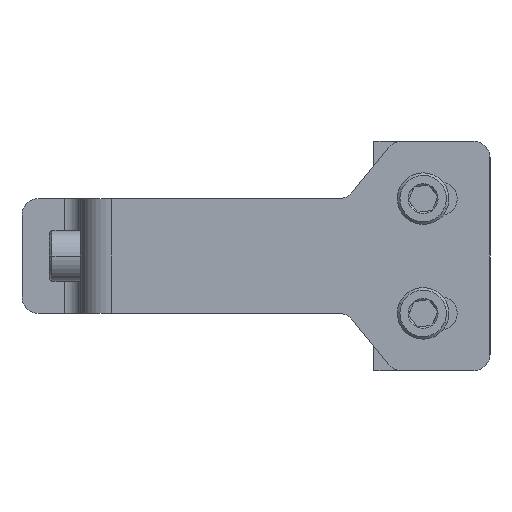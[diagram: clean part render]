
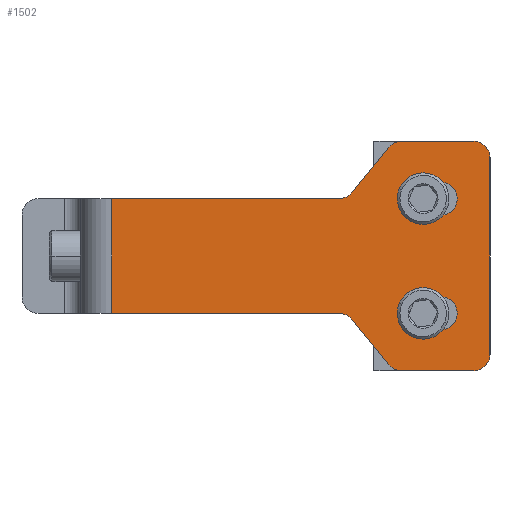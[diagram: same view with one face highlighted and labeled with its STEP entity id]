
A CAD part, left-side view. The second image highlights one B-rep face of the part: STEP entity #1502.
In plain terms, the highlighted planar face has unit normal (-1, 0, 0).
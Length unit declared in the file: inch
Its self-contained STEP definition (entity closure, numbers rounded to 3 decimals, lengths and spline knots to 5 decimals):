
#803=DIRECTION('',(0.,-1.,0.));
#804=VECTOR('',#803,0.55066);
#805=CARTESIAN_POINT('',(0.,0.67566,-0.875));
#806=LINE('',#805,#804);
#807=CARTESIAN_POINT('',(0.,0.67566,-0.75));
#808=DIRECTION('',(-1.,0.,0.));
#809=DIRECTION('',(0.,0.775,-0.632));
#810=AXIS2_PLACEMENT_3D('',#807,#808,#809);
#812=DIRECTION('',(0.,-0.632,-0.775));
#813=VECTOR('',#812,0.446);
#814=CARTESIAN_POINT('',(0.,1.05449,-0.48347));
#815=LINE('',#814,#813);
#816=CARTESIAN_POINT('',(0.,1.15134,-0.5625));
#817=DIRECTION('',(1.,0.,0.));
#818=DIRECTION('',(0.,0.,1.));
#819=AXIS2_PLACEMENT_3D('',#816,#817,#818);
#821=DIRECTION('',(0.,-1.,0.));
#822=VECTOR('',#821,1.73366);
#823=CARTESIAN_POINT('',(0.,2.885,-0.4375));
#824=LINE('',#823,#822);
#825=DIRECTION('',(0.,1.,0.));
#826=VECTOR('',#825,1.73366);
#827=CARTESIAN_POINT('',(0.,1.15134,0.4375));
#828=LINE('',#827,#826);
#829=CARTESIAN_POINT('',(0.,1.15134,0.5625));
#830=DIRECTION('',(1.,0.,0.));
#831=DIRECTION('',(0.,-0.775,-0.632));
#832=AXIS2_PLACEMENT_3D('',#829,#830,#831);
#834=DIRECTION('',(0.,0.632,-0.775));
#835=VECTOR('',#834,0.446);
#836=CARTESIAN_POINT('',(0.,0.77251,0.82903));
#837=LINE('',#836,#835);
#838=CARTESIAN_POINT('',(0.,0.67566,0.75));
#839=DIRECTION('',(-1.,0.,0.));
#840=DIRECTION('',(0.,0.,1.));
#841=AXIS2_PLACEMENT_3D('',#838,#839,#840);
#843=CARTESIAN_POINT('',(0.,0.125,0.75));
#844=DIRECTION('',(-1.,0.,0.));
#845=DIRECTION('',(0.,-1.,0.));
#846=AXIS2_PLACEMENT_3D('',#843,#844,#845);
#848=DIRECTION('',(0.,0.,1.));
#849=VECTOR('',#848,1.5);
#850=CARTESIAN_POINT('',(0.,0.,-0.75));
#851=LINE('',#850,#849);
#852=CARTESIAN_POINT('',(0.,0.125,-0.75));
#853=DIRECTION('',(-1.,0.,0.));
#854=DIRECTION('',(0.,0.,-1.));
#855=AXIS2_PLACEMENT_3D('',#852,#853,#854);
#857=CARTESIAN_POINT('',(0.,0.51,0.4375));
#858=DIRECTION('',(1.,0.,0.));
#859=DIRECTION('',(0.,0.,-1.));
#860=AXIS2_PLACEMENT_3D('',#857,#858,#859);
#862=DIRECTION('',(0.,1.,0.));
#863=VECTOR('',#862,0.135);
#864=CARTESIAN_POINT('',(0.,0.375,0.3125));
#865=LINE('',#864,#863);
#866=CARTESIAN_POINT('',(0.,0.375,0.4375));
#867=DIRECTION('',(1.,0.,0.));
#868=DIRECTION('',(0.,0.,1.));
#869=AXIS2_PLACEMENT_3D('',#866,#867,#868);
#871=DIRECTION('',(0.,-1.,0.));
#872=VECTOR('',#871,0.135);
#873=CARTESIAN_POINT('',(0.,0.51,0.5625));
#874=LINE('',#873,#872);
#875=CARTESIAN_POINT('',(0.,0.51,-0.4375));
#876=DIRECTION('',(1.,0.,0.));
#877=DIRECTION('',(0.,0.,-1.));
#878=AXIS2_PLACEMENT_3D('',#875,#876,#877);
#880=DIRECTION('',(0.,1.,0.));
#881=VECTOR('',#880,0.135);
#882=CARTESIAN_POINT('',(0.,0.375,-0.5625));
#883=LINE('',#882,#881);
#884=CARTESIAN_POINT('',(0.,0.375,-0.4375));
#885=DIRECTION('',(1.,0.,0.));
#886=DIRECTION('',(0.,0.,1.));
#887=AXIS2_PLACEMENT_3D('',#884,#885,#886);
#889=DIRECTION('',(0.,-1.,0.));
#890=VECTOR('',#889,0.135);
#891=CARTESIAN_POINT('',(0.,0.51,-0.3125));
#892=LINE('',#891,#890);
#1007=DIRECTION('',(0.,-1.,0.));
#1008=VECTOR('',#1007,0.55066);
#1009=CARTESIAN_POINT('',(0.,0.67566,0.875));
#1010=LINE('',#1009,#1008);
#1023=DIRECTION('',(0.,0.,1.));
#1024=VECTOR('',#1023,0.875);
#1025=CARTESIAN_POINT('',(0.,2.885,-0.4375));
#1026=LINE('',#1025,#1024);
#1203=CARTESIAN_POINT('',(0.,1.15134,0.4375));
#1204=CARTESIAN_POINT('',(0.,2.885,0.4375));
#1205=VERTEX_POINT('',#1203);
#1206=VERTEX_POINT('',#1204);
#1207=CARTESIAN_POINT('',(0.,1.15134,-0.4375));
#1208=CARTESIAN_POINT('',(0.,1.05449,-0.48347));
#1209=VERTEX_POINT('',#1207);
#1210=VERTEX_POINT('',#1208);
#1211=CARTESIAN_POINT('',(0.,0.375,0.5625));
#1212=CARTESIAN_POINT('',(0.,0.375,0.3125));
#1213=VERTEX_POINT('',#1211);
#1214=VERTEX_POINT('',#1212);
#1223=CARTESIAN_POINT('',(0.,1.05449,0.48347));
#1224=VERTEX_POINT('',#1223);
#1231=CARTESIAN_POINT('',(0.,2.885,-0.4375));
#1232=VERTEX_POINT('',#1231);
#1237=CARTESIAN_POINT('',(0.,0.375,-0.3125));
#1238=CARTESIAN_POINT('',(0.,0.375,-0.5625));
#1239=VERTEX_POINT('',#1237);
#1240=VERTEX_POINT('',#1238);
#1242=CARTESIAN_POINT('',(0.,0.67566,-0.875));
#1244=VERTEX_POINT('',#1242);
#1255=CARTESIAN_POINT('',(0.,0.125,-0.875));
#1256=VERTEX_POINT('',#1255);
#1269=CARTESIAN_POINT('',(0.,0.51,-0.5625));
#1270=CARTESIAN_POINT('',(0.,0.51,-0.3125));
#1271=VERTEX_POINT('',#1269);
#1272=VERTEX_POINT('',#1270);
#1273=CARTESIAN_POINT('',(0.,0.77251,-0.82903));
#1275=VERTEX_POINT('',#1273);
#1291=CARTESIAN_POINT('',(0.,0.51,0.5625));
#1292=VERTEX_POINT('',#1291);
#1299=CARTESIAN_POINT('',(0.,0.,0.75));
#1300=VERTEX_POINT('',#1299);
#1303=CARTESIAN_POINT('',(0.,0.51,0.3125));
#1304=VERTEX_POINT('',#1303);
#1305=CARTESIAN_POINT('',(0.,0.67566,0.875));
#1306=CARTESIAN_POINT('',(0.,0.125,0.875));
#1307=VERTEX_POINT('',#1305);
#1308=VERTEX_POINT('',#1306);
#1309=CARTESIAN_POINT('',(0.,0.77251,0.82903));
#1310=VERTEX_POINT('',#1309);
#1315=CARTESIAN_POINT('',(0.,0.,-0.75));
#1316=VERTEX_POINT('',#1315);
#1452=CARTESIAN_POINT('',(0.,0.,0.875));
#1453=DIRECTION('',(-1.,0.,0.));
#1454=DIRECTION('',(0.,0.,1.));
#1455=AXIS2_PLACEMENT_3D('',#1452,#1453,#1454);
#1456=PLANE('',#1455);
#1458=ORIENTED_EDGE('',*,*,#1457,.F.);
#1460=ORIENTED_EDGE('',*,*,#1459,.F.);
#1462=ORIENTED_EDGE('',*,*,#1461,.F.);
#1464=ORIENTED_EDGE('',*,*,#1463,.F.);
#1466=ORIENTED_EDGE('',*,*,#1465,.F.);
#1468=ORIENTED_EDGE('',*,*,#1467,.T.);
#1470=ORIENTED_EDGE('',*,*,#1469,.F.);
#1472=ORIENTED_EDGE('',*,*,#1471,.F.);
#1474=ORIENTED_EDGE('',*,*,#1473,.F.);
#1476=ORIENTED_EDGE('',*,*,#1475,.F.);
#1478=ORIENTED_EDGE('',*,*,#1477,.T.);
#1480=ORIENTED_EDGE('',*,*,#1479,.F.);
#1481=ORIENTED_EDGE('',*,*,#1442,.F.);
#1483=ORIENTED_EDGE('',*,*,#1482,.F.);
#1484=EDGE_LOOP('',(#1458,#1460,#1462,#1464,#1466,#1468,#1470,#1472,#1474,#1476,
#1478,#1480,#1481,#1483));
#1485=FACE_OUTER_BOUND('',#1484,.F.);
#1486=ORIENTED_EDGE('',*,*,#1351,.F.);
#1487=ORIENTED_EDGE('',*,*,#1336,.F.);
#1488=ORIENTED_EDGE('',*,*,#1380,.F.);
#1489=ORIENTED_EDGE('',*,*,#1366,.F.);
#1490=EDGE_LOOP('',(#1486,#1487,#1488,#1489));
#1491=FACE_BOUND('',#1490,.F.);
#1493=ORIENTED_EDGE('',*,*,#1492,.F.);
#1495=ORIENTED_EDGE('',*,*,#1494,.F.);
#1497=ORIENTED_EDGE('',*,*,#1496,.F.);
#1499=ORIENTED_EDGE('',*,*,#1498,.F.);
#1500=EDGE_LOOP('',(#1493,#1495,#1497,#1499));
#1501=FACE_BOUND('',#1500,.F.);
#811=CIRCLE('',#810,0.125);
#820=CIRCLE('',#819,0.125);
#833=CIRCLE('',#832,0.125);
#842=CIRCLE('',#841,0.125);
#847=CIRCLE('',#846,0.125);
#856=CIRCLE('',#855,0.125);
#861=CIRCLE('',#860,0.125);
#870=CIRCLE('',#869,0.125);
#879=CIRCLE('',#878,0.125);
#888=CIRCLE('',#887,0.125);
#1336=EDGE_CURVE('',#1214,#1304,#865,.T.);
#1351=EDGE_CURVE('',#1304,#1292,#861,.T.);
#1366=EDGE_CURVE('',#1292,#1213,#874,.T.);
#1380=EDGE_CURVE('',#1213,#1214,#870,.T.);
#1442=EDGE_CURVE('',#1316,#1300,#851,.T.);
#1457=EDGE_CURVE('',#1244,#1256,#806,.T.);
#1459=EDGE_CURVE('',#1275,#1244,#811,.T.);
#1461=EDGE_CURVE('',#1210,#1275,#815,.T.);
#1463=EDGE_CURVE('',#1209,#1210,#820,.T.);
#1465=EDGE_CURVE('',#1232,#1209,#824,.T.);
#1467=EDGE_CURVE('',#1232,#1206,#1026,.T.);
#1469=EDGE_CURVE('',#1205,#1206,#828,.T.);
#1471=EDGE_CURVE('',#1224,#1205,#833,.T.);
#1473=EDGE_CURVE('',#1310,#1224,#837,.T.);
#1475=EDGE_CURVE('',#1307,#1310,#842,.T.);
#1477=EDGE_CURVE('',#1307,#1308,#1010,.T.);
#1479=EDGE_CURVE('',#1300,#1308,#847,.T.);
#1482=EDGE_CURVE('',#1256,#1316,#856,.T.);
#1492=EDGE_CURVE('',#1271,#1272,#879,.T.);
#1494=EDGE_CURVE('',#1240,#1271,#883,.T.);
#1496=EDGE_CURVE('',#1239,#1240,#888,.T.);
#1498=EDGE_CURVE('',#1272,#1239,#892,.T.);
#1502=ADVANCED_FACE('',(#1485,#1491,#1501),#1456,.T.);
